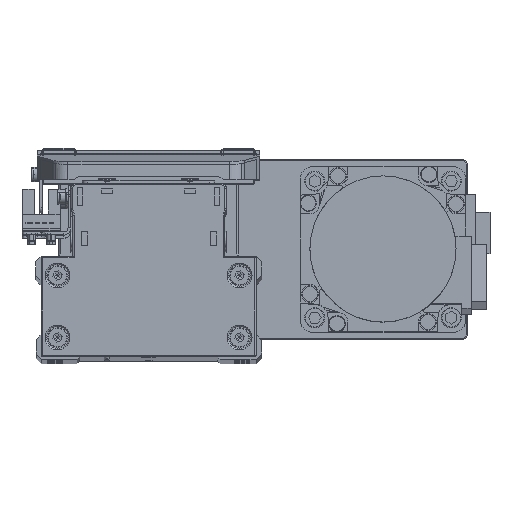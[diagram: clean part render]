
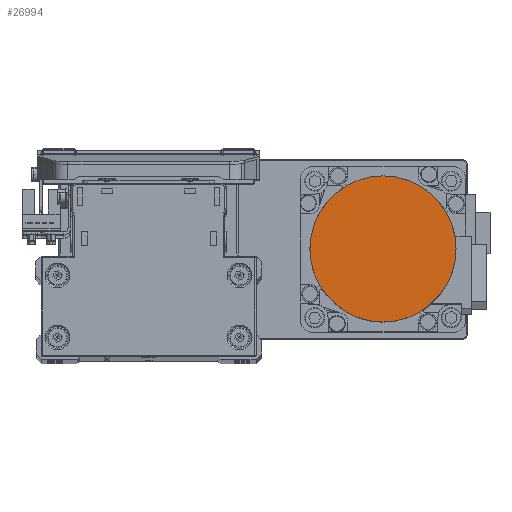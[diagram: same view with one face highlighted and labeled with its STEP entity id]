
A CAD part, top view. The second image highlights one B-rep face of the part: STEP entity #26994.
In plain terms, the highlighted planar face has unit normal (0, 0, 1) as drawn and (0, 0, -1) by its records, which use the part's own axes.
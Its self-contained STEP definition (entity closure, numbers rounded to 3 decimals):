
#2769 = CIRCLE ( 'NONE', #26056, 26.5 ) ;
#2973 = VERTEX_POINT ( 'NONE', #22265 ) ;
#4340 = CARTESIAN_POINT ( 'NONE',  ( 0., 0., -109.7 ) ) ;
#5370 = CARTESIAN_POINT ( 'NONE',  ( 0., 0., -109.7 ) ) ;
#6331 = VERTEX_POINT ( 'NONE', #9235 ) ;
#9235 = CARTESIAN_POINT ( 'NONE',  ( 26.5, 0., -109.7 ) ) ;
#10224 = CIRCLE ( 'NONE', #15553, 26.5 ) ;
#11174 = DIRECTION ( 'NONE',  ( 1., 0., 0. ) ) ;
#11558 = ORIENTED_EDGE ( 'NONE', *, *, #15815, .F. ) ;
#14784 = EDGE_LOOP ( 'NONE', ( #11558, #23638 ) ) ;
#15553 = AXIS2_PLACEMENT_3D ( 'NONE', #26999, #39686, #11174 ) ;
#15815 = EDGE_CURVE ( 'NONE', #2973, #6331, #2769, .T. ) ;
#17058 = DIRECTION ( 'NONE',  ( 0., 0., 1. ) ) ;
#17481 = EDGE_CURVE ( 'NONE', #6331, #2973, #10224, .T. ) ;
#18091 = DIRECTION ( 'NONE',  ( 0., 0., 1. ) ) ;
#20182 = FACE_OUTER_BOUND ( 'NONE', #14784, .T. ) ;
#22265 = CARTESIAN_POINT ( 'NONE',  ( -26.5, 0., -109.7 ) ) ;
#23638 = ORIENTED_EDGE ( 'NONE', *, *, #17481, .F. ) ;
#26056 = AXIS2_PLACEMENT_3D ( 'NONE', #5370, #18091, #30771 ) ;
#26994 = ADVANCED_FACE ( 'NONE', ( #20182 ), #32859, .F. ) ;
#26999 = CARTESIAN_POINT ( 'NONE',  ( 0., 0., -109.7 ) ) ;
#29732 = DIRECTION ( 'NONE',  ( 1., 0., 0. ) ) ;
#30771 = DIRECTION ( 'NONE',  ( -1., 0., 0. ) ) ;
#30898 = AXIS2_PLACEMENT_3D ( 'NONE', #4340, #17058, #29732 ) ;
#32859 = PLANE ( 'NONE',  #30898 ) ;
#39686 = DIRECTION ( 'NONE',  ( 0., 0., 1. ) ) ;
